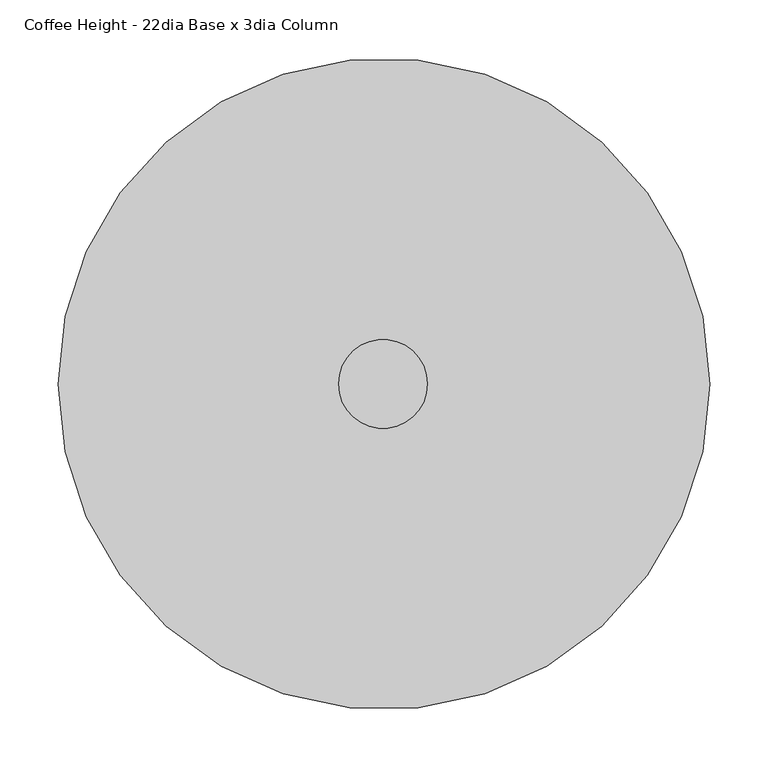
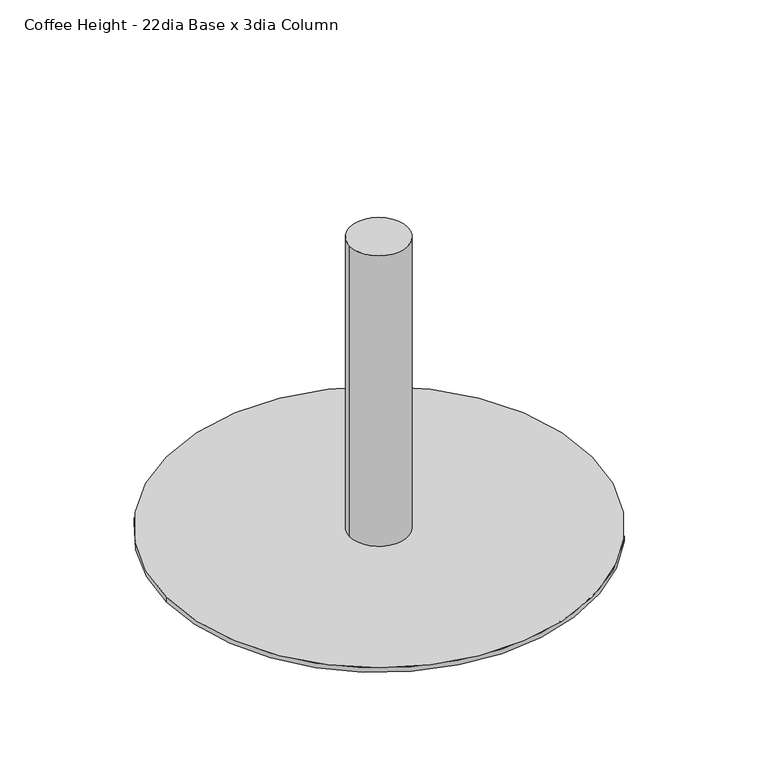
"""IFC4 building model written with IfcOpenShell, lengths in millimetres: furniture geometry, Steelcase - Groupwork - Table - Base : Coffee Height - 22dia Base x 3dia Column."""

from ifc_helpers import new_model, si_unit, point, frame, frame_2d, origin, origin_with_axes, origin_2d, place, context, project, spatial, circle_curve, trimmed, segment, composite_curve, outline, extrude, source, transform, mapped, element, save


def coffee_height_22dia_base_x_3dia_column_a589476b(model_context):
    return source(origin(), model_context, "Body", "SweptSolid", [
        extrude(outline(composite_curve([segment(trimmed(circle_curve(frame_2d((-0.79375, 0.0)), 38.1), [point((-38.89375, 0.0))], [point((37.30625, 0.0))], False, "CARTESIAN"), True, "CONTINUOUS"), segment(trimmed(circle_curve(frame_2d((-0.79375, 0.0)), 38.1), [point((37.30625, 0.0))], [point((-38.89375, 0.0))], False, "CARTESIAN"), True, "CONTINUOUS")], self_intersect=False)), frame((0.0, 0.0, 6.35), z_axis=(0.0, 0.0, 1.0), x_axis=(1.0, 0.0, 0.0)), (0.0, 0.0, 1.0), 403.352),
        extrude(outline(composite_curve([segment(trimmed(circle_curve(origin_2d(), 279.4), [point((-279.4, 0.0))], [point((279.4, 0.0))], False, "CARTESIAN"), True, "CONTINUOUS"), segment(trimmed(circle_curve(origin_2d(), 279.4), [point((279.4, 0.0))], [point((-279.4, 0.0))], False, "CARTESIAN"), True, "CONTINUOUS")], self_intersect=False)), origin_with_axes(), (0.0, 0.0, 1.0), 6.35),
    ])


if __name__ == "__main__":
    model = new_model("IFC4")
    model_context = context("Model", 3, world=origin())
    ifc_project = project(units=[si_unit("LENGTHUNIT", "METRE", prefix="MILLI")], contexts=[model_context])
    site = spatial("IfcSite", under=ifc_project)
    building = spatial("IfcBuilding", under=site)
    placement = place(None, origin())
    coffee_height_22dia_base_x_3dia_column_shape = coffee_height_22dia_base_x_3dia_column_a589476b(model_context)
    element("IfcFurniture", 1, ObjectType="Steelcase - Groupwork - Table - Base : Coffee Height - 22dia Base x 3dia Column", at=placement, inside=building, context=model_context, shape_type="MappedRepresentation", body=[
        mapped(coffee_height_22dia_base_x_3dia_column_shape, transform((0.0, 0.0, 0.0), x_axis=(1.0, 0.0, 0.0), y_axis=(0.0, 1.0, 0.0), z_axis=(0.0, 0.0, 1.0))),
    ])
    save(model, "model.ifc")
